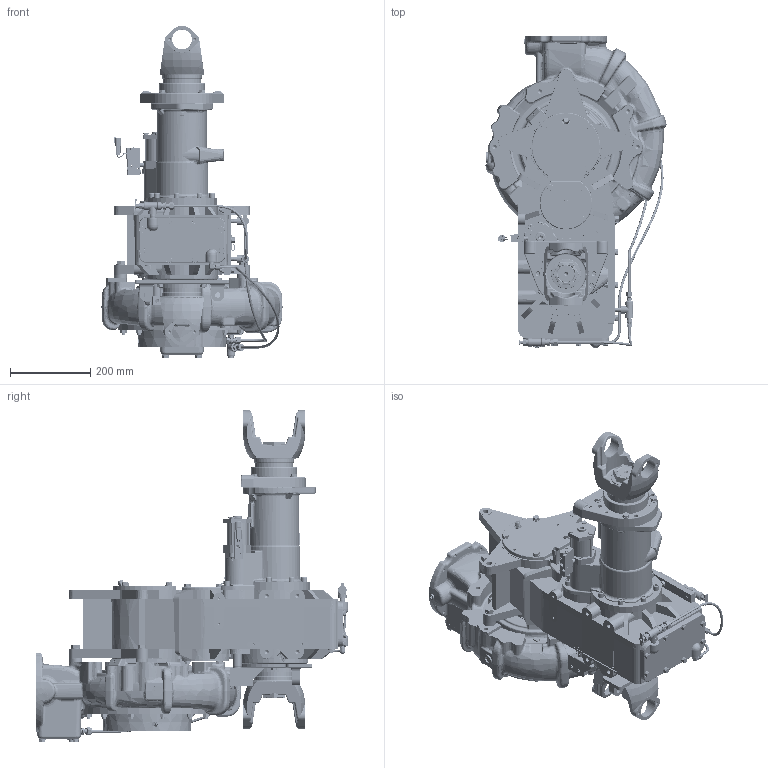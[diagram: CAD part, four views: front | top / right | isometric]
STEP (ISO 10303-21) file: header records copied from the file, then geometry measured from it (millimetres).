
FILE_DESCRIPTION (( 'STEP AP214' ), '1' );
FILE_NAME ('DTD1001.STEP', '2020-04-23T16:11:26', ( '' ), ( '' ), 'SwSTEP 2.0', 'SolidWorks 2018', '' );
FILE_SCHEMA (( 'AUTOMOTIVE_DESIGN' ));
Length unit declared in the file: inch
Products named in the file (1): DTD1001
Bounding box: 450.48 x 775.97 x 825.69 mm (x, y, z)
Surface area: 3949111.1 mm2 (no closed solid volume)
Topology: 0 solids, 252 shells, 16267 faces, 39694 edges, 23776 vertices
Faces by surface type: cylinder 4555, plane 3697, cone 2824, bspline 2766, torus 2053, sphere 372
Entity records: 1050854 total; most frequent: CARTESIAN_POINT 483777, ORIENTED_EDGE 77758, DIRECTION 69431, EDGE_CURVE 39064, AXIS2_PLACEMENT_3D 28644, VERTEX_POINT 23680, EDGE_LOOP 17288, LENGTH_MEASURE_WITH_UNIT 16502
